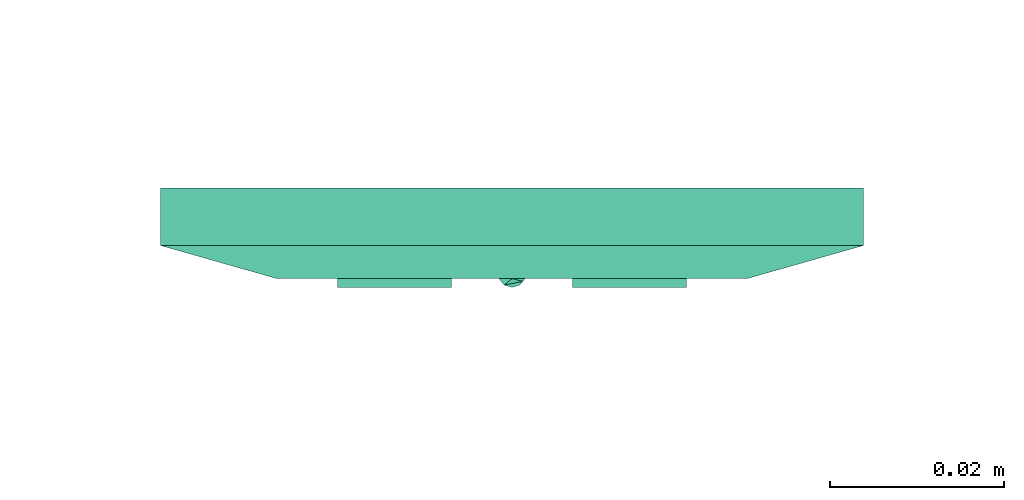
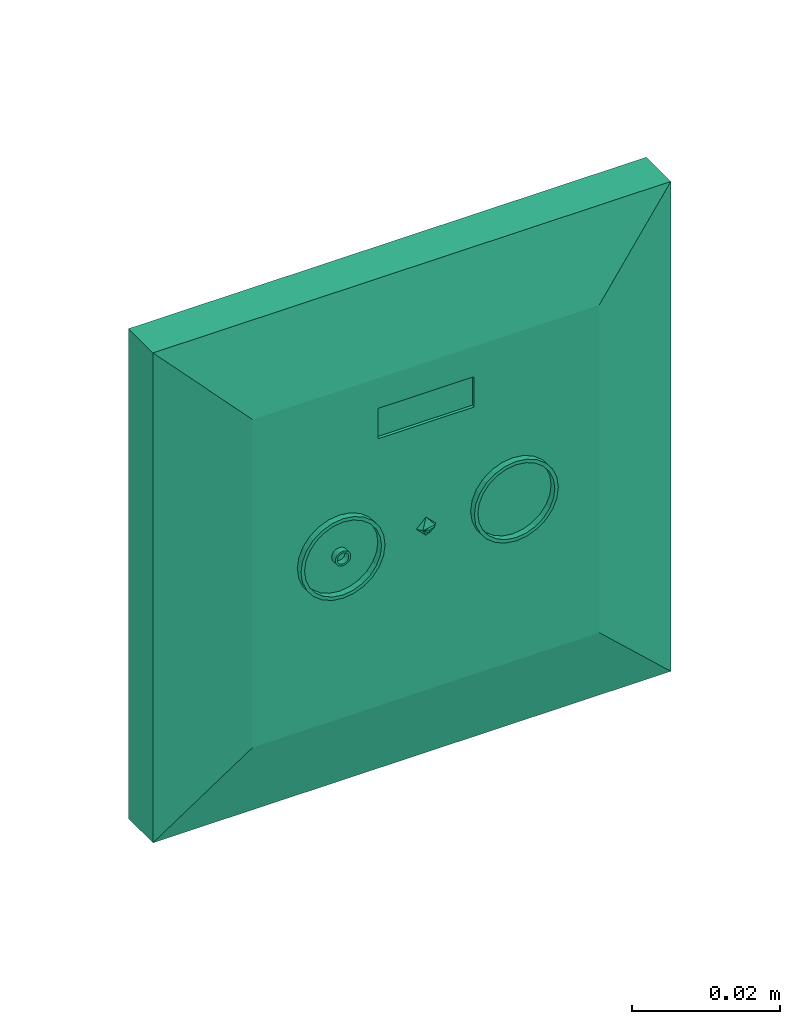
# One storey, part 118 of 146: 1 flow terminal.
"""IFC2X3 building model written with IfcOpenShell, lengths in metres."""

from ifc_helpers import new_model, entity, si_unit, converted_unit, derived_unit, direction, frame, origin, place, context, subcontext, project, spatial, face_set, surface_model, source, transform, mapped, type_object, type_shapes, element, save


model = new_model("IFC2X3")

# Units and contexts
model_context = context("Model", 3, precision=1e-05, world=origin(), true_north=direction((6.12303176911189e-17, 1.0)))
body_context = subcontext(model_context, "Body", "Model", "MODEL_VIEW")
ifc_project = project(units=[si_unit("LENGTHUNIT", "METRE"), si_unit("AREAUNIT", "SQUARE_METRE"), si_unit("VOLUMEUNIT", "CUBIC_METRE"), converted_unit("PLANEANGLEUNIT", "DEGREE", entity("IfcRatioMeasure", 0.0174532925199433), si_unit("PLANEANGLEUNIT", "RADIAN"), dimensions=[0, 0, 0, 0, 0, 0, 0]), si_unit("MASSUNIT", "GRAM", prefix="KILO"), derived_unit("MASSDENSITYUNIT", [(si_unit("MASSUNIT", "GRAM", prefix="KILO"), 1), (si_unit("LENGTHUNIT", "METRE"), -3)]), si_unit("TIMEUNIT", "SECOND"), si_unit("FREQUENCYUNIT", "HERTZ"), si_unit("THERMODYNAMICTEMPERATUREUNIT", "DEGREE_CELSIUS"), derived_unit("THERMALTRANSMITTANCEUNIT", [(si_unit("MASSUNIT", "GRAM", prefix="KILO"), 1), (si_unit("THERMODYNAMICTEMPERATUREUNIT", "KELVIN"), -1), (si_unit("TIMEUNIT", "SECOND"), -3)]), derived_unit("VOLUMETRICFLOWRATEUNIT", [(si_unit("LENGTHUNIT", "METRE"), 3), (si_unit("TIMEUNIT", "SECOND"), -1)]), si_unit("ELECTRICCURRENTUNIT", "AMPERE"), si_unit("ELECTRICVOLTAGEUNIT", "VOLT"), si_unit("POWERUNIT", "WATT"), si_unit("FORCEUNIT", "NEWTON"), si_unit("ILLUMINANCEUNIT", "LUX"), si_unit("LUMINOUSFLUXUNIT", "LUMEN"), si_unit("LUMINOUSINTENSITYUNIT", "CANDELA"), derived_unit("USERDEFINED", [(si_unit("MASSUNIT", "GRAM", prefix="KILO"), -1), (si_unit("LENGTHUNIT", "METRE"), -2), (si_unit("TIMEUNIT", "SECOND"), 3), (si_unit("LUMINOUSFLUXUNIT", "LUMEN"), 1)]), derived_unit("LINEARVELOCITYUNIT", [(si_unit("LENGTHUNIT", "METRE"), 1), (si_unit("TIMEUNIT", "SECOND"), -1)]), si_unit("PRESSUREUNIT", "PASCAL"), derived_unit("USERDEFINED", [(si_unit("LENGTHUNIT", "METRE"), -2), (si_unit("MASSUNIT", "GRAM", prefix="KILO"), 1), (si_unit("TIMEUNIT", "SECOND"), -2)])], contexts=[model_context])

# Site, building, storey
site_placement = place(None, origin())
site = spatial("IfcSite", under=ifc_project, at=site_placement, Name="Default", CompositionType="ELEMENT")
building_placement = place(site_placement, origin())
building = spatial("IfcBuilding", under=site, at=building_placement, CompositionType="ELEMENT")
storey_placement = place(building_placement, origin())
storey = spatial("IfcBuildingStorey", under=building, at=storey_placement, Name="S01", CompositionType="ELEMENT", Elevation=0.0)

# Flow terminal
electric_appliance_type = type_object("IfcElectricApplianceType", Name="Prise vidéo IP20", PredefinedType="NOTDEFINED")
shared_shape = source(origin(), body_context, "Body", "SurfaceModel", [
    surface_model("IfcFaceBasedSurfaceModel", [(0.0, 0.0, 0.010399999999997), (-0.00149999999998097, 0.0, 0.0103999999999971), (0.0, 0.0014999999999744, 0.0103999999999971), (0.00150000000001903, 0.0, 0.010399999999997), (0.0, -0.0015000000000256, 0.010399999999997), (-0.00090957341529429, 0.0, 0.0111393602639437), (0.00090957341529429, 0.0, 0.0111393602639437), (0.0, 0.000588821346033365, 0.0113031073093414), (0.0, 0.0, 0.0114000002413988), (-0.00125418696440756, 0.0, 0.0107078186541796), (0.000378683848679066, 0.0, 0.0112914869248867), (-0.00695404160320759, 0.0, 0.010399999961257), (-0.007177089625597, 0.00169421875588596, 0.010399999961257), (-0.007177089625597, 0.00169421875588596, 0.0114000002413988), (-0.00695404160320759, 0.0, 0.0114000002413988), (-0.00783103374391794, 0.00327297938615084, 0.010399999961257), (-0.00783103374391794, 0.00327297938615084, 0.0114000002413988), (-0.00887130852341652, 0.00462869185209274, 0.010399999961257), (-0.0102270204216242, 0.00566896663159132, 0.010399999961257), (-0.0102270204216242, 0.00566896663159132, 0.0114000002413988), (-0.00887130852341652, 0.00462869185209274, 0.0114000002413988), (-0.0118057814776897, 0.00632291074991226, 0.010399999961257), (-0.0118057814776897, 0.00632291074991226, 0.0114000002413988), (-0.0135000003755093, 0.00654595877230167, 0.0114000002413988), (-0.0135000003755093, 0.00654595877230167, 0.010399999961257), (-0.0151942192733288, 0.00632291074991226, 0.010399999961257), (-0.0151942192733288, 0.00632291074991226, 0.0114000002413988), (-0.0167729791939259, 0.00566896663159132, 0.010399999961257), (-0.0167729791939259, 0.00566896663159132, 0.0114000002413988), (-0.018128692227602, 0.00462869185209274, 0.010399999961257), (-0.0191689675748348, 0.00327297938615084, 0.010399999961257), (-0.0191689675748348, 0.00327297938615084, 0.0114000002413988), (-0.018128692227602, 0.00462869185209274, 0.0114000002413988), (-0.0198229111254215, 0.00169421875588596, 0.010399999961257), (-0.0198229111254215, 0.00169421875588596, 0.0114000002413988), (-0.0200459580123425, 0.0, 0.0114000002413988), (-0.0200459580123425, 0.0, 0.010399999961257), (-0.0198229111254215, -0.00169421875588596, 0.010399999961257), (-0.0198229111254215, -0.00169421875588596, 0.0114000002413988), (-0.0191689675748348, -0.00327297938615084, 0.010399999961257), (-0.0191689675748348, -0.00327297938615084, 0.0114000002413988), (-0.018128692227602, -0.00462869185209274, 0.010399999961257), (-0.0167729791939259, -0.00566896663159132, 0.010399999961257), (-0.0167729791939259, -0.00566896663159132, 0.0114000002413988), (-0.018128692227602, -0.00462869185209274, 0.0114000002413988), (-0.0151942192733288, -0.00632291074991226, 0.010399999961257), (-0.0151942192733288, -0.00632291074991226, 0.0114000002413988), (-0.0135000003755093, -0.00654595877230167, 0.0114000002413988), (-0.0135000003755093, -0.00654595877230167, 0.010399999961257), (-0.0118057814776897, -0.00632291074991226, 0.010399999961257), (-0.0118057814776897, -0.00632291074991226, 0.0114000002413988), (-0.0102270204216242, -0.00566896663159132, 0.010399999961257), (-0.0102270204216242, -0.00566896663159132, 0.0114000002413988), (-0.00887130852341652, -0.00462869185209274, 0.010399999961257), (-0.00783103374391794, -0.00327297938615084, 0.010399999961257), (-0.00783103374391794, -0.00327297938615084, 0.0114000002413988), (-0.00887130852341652, -0.00462869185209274, 0.0114000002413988), (-0.007177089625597, -0.00169421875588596, 0.010399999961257), (-0.007177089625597, -0.00169421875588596, 0.0114000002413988), (-0.00749999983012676, 0.0, 0.010399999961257), (-0.00749999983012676, 0.0, 0.0114000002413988), (-0.00770444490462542, -0.00155291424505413, 0.0114000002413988), (-0.00770444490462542, -0.00155291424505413, 0.010399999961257), (-0.00830384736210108, -0.00299999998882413, 0.0114000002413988), (-0.00830384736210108, -0.00299999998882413, 0.010399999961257), (-0.0092573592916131, -0.00424264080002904, 0.010399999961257), (-0.0092573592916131, -0.00424264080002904, 0.0114000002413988), (-0.0104999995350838, -0.00519615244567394, 0.0114000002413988), (-0.0104999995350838, -0.00519615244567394, 0.010399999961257), (-0.0119470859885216, -0.00579555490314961, 0.0114000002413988), (-0.0119470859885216, -0.00579555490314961, 0.010399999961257), (-0.0135000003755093, -0.00599999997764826, 0.0114000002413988), (-0.0135000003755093, -0.00599999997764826, 0.010399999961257), (-0.015052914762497, -0.00579555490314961, 0.0114000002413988), (-0.015052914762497, -0.00579555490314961, 0.010399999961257), (-0.0165000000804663, -0.00519615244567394, 0.0114000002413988), (-0.0165000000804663, -0.00519615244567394, 0.010399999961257), (-0.0177426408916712, -0.00424264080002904, 0.010399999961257), (-0.0177426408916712, -0.00424264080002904, 0.0114000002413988), (-0.0186961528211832, -0.00299999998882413, 0.0114000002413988), (-0.0186961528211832, -0.00299999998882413, 0.010399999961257), (-0.0192955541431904, -0.00155291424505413, 0.0114000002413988), (-0.0192955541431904, -0.00155291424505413, 0.010399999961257), (-0.0194999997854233, 0.0, 0.0114000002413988), (-0.0194999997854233, 0.0, 0.010399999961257), (-0.0192955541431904, 0.00155291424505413, 0.0114000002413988), (-0.0192955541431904, 0.00155291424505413, 0.010399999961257), (-0.0186961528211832, 0.00299999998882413, 0.0114000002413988), (-0.0186961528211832, 0.00299999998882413, 0.010399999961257), (-0.0177426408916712, 0.00424264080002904, 0.010399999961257), (-0.0177426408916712, 0.00424264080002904, 0.0114000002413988), (-0.0165000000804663, 0.00519615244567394, 0.0114000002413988), (-0.0165000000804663, 0.00519615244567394, 0.010399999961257), (-0.015052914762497, 0.00579555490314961, 0.0114000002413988), (-0.015052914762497, 0.00579555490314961, 0.010399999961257), (-0.0135000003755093, 0.00599999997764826, 0.0114000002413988), (-0.0135000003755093, 0.00599999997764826, 0.010399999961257), (-0.0119470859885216, 0.00579555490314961, 0.0114000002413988), (-0.0119470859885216, 0.00579555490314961, 0.010399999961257), (-0.0104999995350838, 0.00519615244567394, 0.0114000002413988), (-0.0104999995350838, 0.00519615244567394, 0.010399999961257), (-0.0092573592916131, 0.00424264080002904, 0.010399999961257), (-0.0092573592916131, 0.00424264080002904, 0.0114000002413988), (-0.00830384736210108, 0.00299999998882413, 0.0114000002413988), (-0.00830384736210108, 0.00299999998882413, 0.010399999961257), (-0.00770444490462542, 0.00155291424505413, 0.0114000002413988), (-0.00770444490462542, 0.00155291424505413, 0.010399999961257), (0.0200459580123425, 0.0, 0.0114000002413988), (0.0200459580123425, 0.0, 0.010399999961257), (0.0198229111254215, 0.00169421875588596, 0.010399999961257), (0.0198229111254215, 0.00169421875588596, 0.0114000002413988), (0.0191689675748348, 0.00327297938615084, 0.010399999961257), (0.0191689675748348, 0.00327297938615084, 0.0114000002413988), (0.018128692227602, 0.00462869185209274, 0.0114000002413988), (0.018128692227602, 0.00462869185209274, 0.010399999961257), (0.0167729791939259, 0.00566896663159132, 0.010399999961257), (0.0167729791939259, 0.00566896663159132, 0.0114000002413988), (0.0151942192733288, 0.00632291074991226, 0.010399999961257), (0.0151942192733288, 0.00632291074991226, 0.0114000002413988), (0.0135000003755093, 0.00654595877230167, 0.010399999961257), (0.0135000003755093, 0.00654595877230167, 0.0114000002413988), (0.0118057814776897, 0.00632291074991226, 0.0114000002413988), (0.0118057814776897, 0.00632291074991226, 0.010399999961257), (0.0102270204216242, 0.00566896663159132, 0.010399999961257), (0.0102270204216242, 0.00566896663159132, 0.0114000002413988), (0.00887130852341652, 0.00462869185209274, 0.010399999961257), (0.00887130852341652, 0.00462869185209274, 0.0114000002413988), (0.00783103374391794, 0.00327297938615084, 0.0114000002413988), (0.00783103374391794, 0.00327297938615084, 0.010399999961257), (0.007177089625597, 0.00169421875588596, 0.010399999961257), (0.007177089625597, 0.00169421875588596, 0.0114000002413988), (0.00695404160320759, 0.0, 0.010399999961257), (0.00695404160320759, 0.0, 0.0114000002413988), (0.007177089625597, -0.00169421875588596, 0.010399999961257), (0.007177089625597, -0.00169421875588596, 0.0114000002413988), (0.00783103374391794, -0.00327297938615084, 0.010399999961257), (0.00783103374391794, -0.00327297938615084, 0.0114000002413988), (0.00887130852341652, -0.00462869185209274, 0.0114000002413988), (0.00887130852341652, -0.00462869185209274, 0.010399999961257), (0.0102270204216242, -0.00566896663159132, 0.010399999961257), (0.0102270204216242, -0.00566896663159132, 0.0114000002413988), (0.0118057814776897, -0.00632291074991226, 0.010399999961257), (0.0118057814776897, -0.00632291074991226, 0.0114000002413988), (0.0135000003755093, -0.00654595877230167, 0.010399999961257), (0.0135000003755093, -0.00654595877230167, 0.0114000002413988), (0.0151942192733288, -0.00632291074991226, 0.0114000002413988), (0.0151942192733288, -0.00632291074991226, 0.010399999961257), (0.0167729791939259, -0.00566896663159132, 0.010399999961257), (0.0167729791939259, -0.00566896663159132, 0.0114000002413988), (0.018128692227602, -0.00462869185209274, 0.010399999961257), (0.018128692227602, -0.00462869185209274, 0.0114000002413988), (0.0191689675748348, -0.00327297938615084, 0.0114000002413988), (0.0191689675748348, -0.00327297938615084, 0.010399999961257), (0.0198229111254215, -0.00169421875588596, 0.010399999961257), (0.0198229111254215, -0.00169421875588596, 0.0114000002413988), (0.0194999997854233, 0.0, 0.010399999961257), (0.0194999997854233, 0.0, 0.0114000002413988), (0.0192955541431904, -0.00155291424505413, 0.0114000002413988), (0.0192955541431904, -0.00155291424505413, 0.010399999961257), (0.0186961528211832, -0.00299999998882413, 0.0114000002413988), (0.0186961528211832, -0.00299999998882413, 0.010399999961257), (0.0177426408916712, -0.00424264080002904, 0.010399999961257), (0.0177426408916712, -0.00424264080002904, 0.0114000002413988), (0.0165000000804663, -0.00519615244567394, 0.0114000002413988), (0.0165000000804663, -0.00519615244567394, 0.010399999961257), (0.015052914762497, -0.00579555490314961, 0.0114000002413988), (0.015052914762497, -0.00579555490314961, 0.010399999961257), (0.0135000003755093, -0.00599999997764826, 0.0114000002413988), (0.0135000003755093, -0.00599999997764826, 0.010399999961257), (0.0119470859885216, -0.00579555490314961, 0.0114000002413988), (0.0119470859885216, -0.00579555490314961, 0.010399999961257), (0.0104999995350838, -0.00519615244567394, 0.0114000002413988), (0.0104999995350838, -0.00519615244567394, 0.010399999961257), (0.0092573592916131, -0.00424264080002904, 0.010399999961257), (0.0092573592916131, -0.00424264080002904, 0.0114000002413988), (0.00830384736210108, -0.00299999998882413, 0.0114000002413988), (0.00830384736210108, -0.00299999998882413, 0.010399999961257), (0.00770444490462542, -0.00155291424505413, 0.0114000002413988), (0.00770444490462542, -0.00155291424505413, 0.010399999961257), (0.00749999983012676, 0.0, 0.0114000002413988), (0.00749999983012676, 0.0, 0.010399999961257), (0.00770444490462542, 0.00155291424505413, 0.0114000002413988), (0.00770444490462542, 0.00155291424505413, 0.010399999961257), (0.00830384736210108, 0.00299999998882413, 0.0114000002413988), (0.00830384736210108, 0.00299999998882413, 0.010399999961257), (0.0092573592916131, 0.00424264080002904, 0.010399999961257), (0.0092573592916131, 0.00424264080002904, 0.0114000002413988), (0.0104999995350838, 0.00519615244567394, 0.0114000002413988), (0.0104999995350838, 0.00519615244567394, 0.010399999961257), (0.0119470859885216, 0.00579555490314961, 0.0114000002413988), (0.0119470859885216, 0.00579555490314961, 0.010399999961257), (0.0135000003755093, 0.00599999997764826, 0.0114000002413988), (0.0135000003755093, 0.00599999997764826, 0.010399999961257), (0.015052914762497, 0.00579555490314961, 0.0114000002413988), (0.015052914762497, 0.00579555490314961, 0.010399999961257), (0.0165000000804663, 0.00519615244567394, 0.0114000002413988), (0.0165000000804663, 0.00519615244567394, 0.010399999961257), (0.0177426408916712, 0.00424264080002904, 0.010399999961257), (0.0177426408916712, 0.00424264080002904, 0.0114000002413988), (0.0186961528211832, 0.00299999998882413, 0.0114000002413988), (0.0186961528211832, 0.00299999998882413, 0.010399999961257), (0.0192955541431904, 0.00155291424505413, 0.0114000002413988), (0.0192955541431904, 0.00155291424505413, 0.010399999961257), (0.0146999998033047, 0.0, 0.0114000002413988), (0.0146999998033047, 0.0, 0.010399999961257), (0.0146591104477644, 0.000310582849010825, 0.010399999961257), (0.0146591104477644, 0.000310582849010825, 0.0114000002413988), (0.0145392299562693, 0.000599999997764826, 0.010399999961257), (0.0145392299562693, 0.000599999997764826, 0.0114000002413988), (0.0143485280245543, 0.000848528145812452, 0.0114000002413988), (0.0143485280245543, 0.000848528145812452, 0.010399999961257), (0.014100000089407, 0.00103923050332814, 0.010399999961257), (0.014100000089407, 0.00103923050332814, 0.0114000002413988), (0.0138105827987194, 0.00115911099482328, 0.010399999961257), (0.0138105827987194, 0.00115911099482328, 0.0114000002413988), (0.0135000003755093, 0.00119999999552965, 0.010399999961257), (0.0135000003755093, 0.00119999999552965, 0.0114000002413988), (0.0131894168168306, 0.00115911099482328, 0.0114000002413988), (0.0131894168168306, 0.00115911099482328, 0.010399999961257), (0.0128999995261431, 0.00103923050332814, 0.010399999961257), (0.0128999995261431, 0.00103923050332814, 0.0114000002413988), (0.0126514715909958, 0.000848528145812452, 0.010399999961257), (0.0126514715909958, 0.000848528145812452, 0.0114000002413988), (0.0124607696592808, 0.000599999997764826, 0.0114000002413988), (0.0124607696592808, 0.000599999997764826, 0.010399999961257), (0.0123408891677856, 0.000310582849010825, 0.010399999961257), (0.0123408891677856, 0.000310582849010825, 0.0114000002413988), (0.0122999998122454, 0.0, 0.010399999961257), (0.0122999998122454, 0.0, 0.0114000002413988), (0.0123408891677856, -0.000310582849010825, 0.010399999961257), (0.0123408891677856, -0.000310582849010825, 0.0114000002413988), (0.0124607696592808, -0.000599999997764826, 0.010399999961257), (0.0124607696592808, -0.000599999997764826, 0.0114000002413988), (0.0126514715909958, -0.000848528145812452, 0.0114000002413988), (0.0126514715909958, -0.000848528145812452, 0.010399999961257), (0.0128999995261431, -0.00103923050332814, 0.010399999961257), (0.0128999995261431, -0.00103923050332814, 0.0114000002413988), (0.0131894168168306, -0.00115911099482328, 0.010399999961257), (0.0131894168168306, -0.00115911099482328, 0.0114000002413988), (0.0135000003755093, -0.00119999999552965, 0.010399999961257), (0.0135000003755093, -0.00119999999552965, 0.0114000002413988), (0.0138105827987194, -0.00115911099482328, 0.0114000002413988), (0.0138105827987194, -0.00115911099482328, 0.010399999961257), (0.014100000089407, -0.00103923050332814, 0.010399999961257), (0.014100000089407, -0.00103923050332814, 0.0114000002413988), (0.0143485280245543, -0.000848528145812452, 0.010399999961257), (0.0143485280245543, -0.000848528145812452, 0.0114000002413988), (0.0145392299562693, -0.000599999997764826, 0.0114000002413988), (0.0145392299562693, -0.000599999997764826, 0.010399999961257), (0.0146591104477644, -0.000310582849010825, 0.010399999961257), (0.0146591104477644, -0.000310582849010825, 0.0114000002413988), (0.0143945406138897, 0.0, 0.010399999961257), (0.0143945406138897, 0.0, 0.0114000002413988), (0.0143640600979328, -0.000231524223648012, 0.0114000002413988), (0.0143640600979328, -0.000231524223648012, 0.010399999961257), (0.0142746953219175, -0.000447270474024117, 0.0114000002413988), (0.0142746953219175, -0.000447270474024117, 0.010399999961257), (0.014132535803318, -0.000632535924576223, 0.010399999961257), (0.014132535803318, -0.000632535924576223, 0.0114000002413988), (0.0139472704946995, -0.000774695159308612, 0.0114000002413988), (0.0139472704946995, -0.000774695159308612, 0.010399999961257), (0.0137315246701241, -0.000864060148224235, 0.0114000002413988), (0.0137315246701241, -0.000864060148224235, 0.010399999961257), (0.0135000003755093, -0.000894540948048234, 0.0114000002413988), (0.0135000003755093, -0.000894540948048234, 0.010399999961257), (0.0132684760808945, -0.000864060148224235, 0.0114000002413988), (0.0132684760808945, -0.000864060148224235, 0.010399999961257), (0.0130527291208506, -0.000774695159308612, 0.0114000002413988), (0.0130527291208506, -0.000774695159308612, 0.010399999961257), (0.012867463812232, -0.000632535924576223, 0.010399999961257), (0.012867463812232, -0.000632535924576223, 0.0114000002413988), (0.0127253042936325, -0.000447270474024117, 0.0114000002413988), (0.0127253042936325, -0.000447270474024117, 0.010399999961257), (0.0126359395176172, -0.000231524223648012, 0.0114000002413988), (0.0126359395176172, -0.000231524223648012, 0.010399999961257), (0.0126054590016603, 0.0, 0.0114000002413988), (0.0126054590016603, 0.0, 0.010399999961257), (0.0126359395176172, 0.000231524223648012, 0.0114000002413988), (0.0126359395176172, 0.000231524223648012, 0.010399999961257), (0.0127253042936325, 0.000447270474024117, 0.0114000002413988), (0.0127253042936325, 0.000447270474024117, 0.010399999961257), (0.012867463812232, 0.000632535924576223, 0.010399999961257), (0.012867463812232, 0.000632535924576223, 0.0114000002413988), (0.0130527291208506, 0.000774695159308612, 0.0114000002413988), (0.0130527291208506, 0.000774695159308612, 0.010399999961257), (0.0132684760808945, 0.000864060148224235, 0.0114000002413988), (0.0132684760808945, 0.000864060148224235, 0.010399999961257), (0.0135000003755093, 0.000894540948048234, 0.0114000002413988), (0.0135000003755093, 0.000894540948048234, 0.010399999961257), (0.0137315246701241, 0.000864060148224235, 0.0114000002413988), (0.0137315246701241, 0.000864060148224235, 0.010399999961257), (0.0139472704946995, 0.000774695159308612, 0.0114000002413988), (0.0139472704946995, 0.000774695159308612, 0.010399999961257), (0.014132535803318, 0.000632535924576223, 0.010399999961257), (0.014132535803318, 0.000632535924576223, 0.0114000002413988), (0.0142746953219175, 0.000447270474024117, 0.0114000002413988), (0.0142746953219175, 0.000447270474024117, 0.010399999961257), (0.0143640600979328, 0.000231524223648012, 0.0114000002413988), (0.0143640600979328, 0.000231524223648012, 0.010399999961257), (0.0146591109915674, 0.000310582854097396, 0.0113999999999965), (0.0126054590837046, 0.0, 0.0113999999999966), (0.0128674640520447, -0.000632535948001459, 0.0113999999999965), (0.0146591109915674, 0.000310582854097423, 0.0103999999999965), (0.0126054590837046, 0.0, 0.0103999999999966), (0.0128674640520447, -0.000632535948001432, 0.0103999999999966), (0.027000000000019, 0.0269999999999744, 0.0103999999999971), (0.027000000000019, -0.0270000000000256, 0.0103999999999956), (-0.026999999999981, -0.0270000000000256, 0.0103999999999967), (-0.026999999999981, 0.0269999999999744, 0.0103999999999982), (-0.0074999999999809, -0.0170000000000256, 0.0103999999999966), (-0.0074999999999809, -0.0220000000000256, 0.0103999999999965), (0.0075000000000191, -0.0220000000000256, 0.0103999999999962), (0.0075000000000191, -0.0170000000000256, 0.0103999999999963), (0.0270000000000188, 0.0269999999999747, 0.0), (0.0270000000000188, -0.0270000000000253, 0.0), (-0.0269999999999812, -0.0270000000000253, 0.0), (-0.0269999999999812, 0.0269999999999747, 0.0), (0.00750000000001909, -0.0170000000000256, 0.00989999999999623), (0.00750000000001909, -0.0220000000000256, 0.00989999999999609), (-0.00749999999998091, -0.0220000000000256, 0.0098999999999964), (-0.00749999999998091, -0.0170000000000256, 0.00989999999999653), (0.040350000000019, 0.0403499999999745, 0.00659999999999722), (0.040350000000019, -0.0403500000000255, 0.00659999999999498), (-0.0403499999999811, -0.0403500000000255, 0.00659999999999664), (-0.0403499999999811, 0.0403499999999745, 0.00659999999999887), (0.027000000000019, 0.0269999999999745, 0.00659999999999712), (-0.0269999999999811, 0.0269999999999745, 0.00659999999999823), (-0.026999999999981, -0.0270000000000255, 0.00659999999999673), (0.027000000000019, -0.0270000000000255, 0.00659999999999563), (0.027000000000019, 0.0269999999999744, 0.0103999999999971), (-0.026999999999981, 0.0269999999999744, 0.0103999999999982), (-0.026999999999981, -0.0270000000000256, 0.0103999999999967), (0.027000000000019, -0.0270000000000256, 0.0103999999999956), (0.040350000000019, 0.0403499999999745, 0.00659999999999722), (0.040350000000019, -0.0403500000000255, 0.00659999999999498), (-0.0403499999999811, -0.0403500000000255, 0.00659999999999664), (-0.0403499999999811, 0.0403499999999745, 0.00659999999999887), (-0.0269999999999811, 0.0269999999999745, 0.00659999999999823), (-0.0269999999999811, -0.0270000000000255, 0.00659999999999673), (0.0270000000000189, -0.0270000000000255, 0.00659999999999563), (0.0270000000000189, 0.0269999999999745, 0.00659999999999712), (0.0403500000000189, 0.0403499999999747, 0.0), (0.0403500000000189, -0.0403500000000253, 0.0), (-0.0403499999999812, -0.0403500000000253, 0.0), (-0.0403499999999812, 0.0403499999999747, 0.0), (0.0270000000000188, 0.0269999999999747, 0.0), (-0.0269999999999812, 0.0269999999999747, 0.0), (-0.0269999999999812, -0.0270000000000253, 0.0), (0.0270000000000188, -0.0270000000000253, 0.0)], [face_set([[[0, 1, 2, 3]], [[0, 3, 4, 1]], [[1, 5, 2]], [[6, 2, 5]], [[7, 8, 6]], [[6, 3, 2]], [[7, 5, 6]], [[8, 7, 5]], [[6, 4, 3]], [[1, 4, 9]], [[6, 9, 4]], [[5, 9, 6, 10]], [[10, 8, 5]]]), face_set([[[11, 12, 13, 14]], [[12, 15, 16, 13]], [[17, 18, 19, 20]], [[15, 17, 20, 16]], [[18, 21, 22, 19]], [[23, 22, 21, 24]], [[24, 25, 26, 23]], [[25, 27, 28, 26]], [[29, 30, 31, 32]], [[27, 29, 32, 28]], [[30, 33, 34, 31]], [[35, 34, 33, 36]], [[36, 37, 38, 35]], [[37, 39, 40, 38]], [[41, 42, 43, 44]], [[39, 41, 44, 40]], [[42, 45, 46, 43]], [[47, 46, 45, 48]], [[48, 49, 50, 47]], [[49, 51, 52, 50]], [[53, 54, 55, 56]], [[51, 53, 56, 52]], [[54, 57, 58, 55]], [[14, 58, 57, 11]], [[59, 60, 61, 62]], [[62, 61, 63, 64]], [[65, 66, 67, 68]], [[64, 63, 66, 65]], [[68, 67, 69, 70]], [[71, 72, 70, 69]], [[72, 71, 73, 74]], [[74, 73, 75, 76]], [[77, 78, 79, 80]], [[76, 75, 78, 77]], [[80, 79, 81, 82]], [[83, 84, 82, 81]], [[84, 83, 85, 86]], [[86, 85, 87, 88]], [[89, 90, 91, 92]], [[88, 87, 90, 89]], [[92, 91, 93, 94]], [[95, 96, 94, 93]], [[96, 95, 97, 98]], [[98, 97, 99, 100]], [[101, 102, 103, 104]], [[100, 99, 102, 101]], [[104, 103, 105, 106]], [[60, 59, 106, 105]], [[35, 34, 31, 32, 28, 26, 23, 22, 19, 20, 16, 13, 14, 58, 55, 56, 52, 50, 47, 46, 43, 44, 40, 38], [83, 81, 79, 78, 75, 73, 71, 69, 67, 66, 63, 61, 60, 105, 103, 102, 99, 97, 95, 93, 91, 90, 87, 85]], [[36, 33, 30, 29, 27, 25, 24, 21, 18, 17, 15, 12, 11, 57, 54, 53, 51, 49, 48, 45, 42, 41, 39, 37], [84, 82, 80, 77, 76, 74, 72, 70, 68, 65, 64, 62, 59, 106, 104, 101, 100, 98, 96, 94, 92, 89, 88, 86]]]), face_set([[[107, 108, 109, 110]], [[110, 109, 111, 112]], [[113, 114, 115, 116]], [[112, 111, 114, 113]], [[116, 115, 117, 118]], [[119, 120, 118, 117]], [[121, 122, 123, 124]], [[124, 123, 125, 126]], [[127, 128, 129, 130]], [[126, 125, 128, 127]], [[130, 129, 131, 132]], [[122, 121, 120, 119]], [[132, 131, 133, 134]], [[134, 133, 135, 136]], [[137, 138, 139, 140]], [[136, 135, 138, 137]], [[140, 139, 141, 142]], [[143, 144, 142, 141]], [[145, 146, 147, 148]], [[148, 147, 149, 150]], [[151, 152, 153, 154]], [[150, 149, 152, 151]], [[154, 153, 108, 107]], [[146, 145, 144, 143]], [[155, 156, 157, 158]], [[158, 157, 159, 160]], [[161, 162, 163, 164]], [[160, 159, 162, 161]], [[164, 163, 165, 166]], [[167, 168, 166, 165]], [[168, 167, 169, 170]], [[170, 169, 171, 172]], [[173, 174, 175, 176]], [[172, 171, 174, 173]], [[176, 175, 177, 178]], [[179, 180, 178, 177]], [[180, 179, 181, 182]], [[182, 181, 183, 184]], [[185, 186, 187, 188]], [[184, 183, 186, 185]], [[188, 187, 189, 190]], [[191, 192, 190, 189]], [[192, 191, 193, 194]], [[194, 193, 195, 196]], [[197, 198, 199, 200]], [[196, 195, 198, 197]], [[200, 199, 201, 202]], [[156, 155, 202, 201]], [[132, 130, 127, 126, 124, 121, 120, 118, 116, 113, 112, 110, 107, 154, 151, 150, 148, 145, 144, 142, 140, 137, 136, 134], [179, 177, 175, 174, 171, 169, 167, 165, 163, 162, 159, 157, 156, 201, 199, 198, 195, 193, 191, 189, 187, 186, 183, 181]], [[131, 129, 128, 125, 123, 122, 119, 117, 115, 114, 111, 109, 108, 153, 152, 149, 147, 146, 143, 141, 139, 138, 135, 133], [180, 178, 176, 173, 172, 170, 168, 166, 164, 161, 160, 158, 155, 202, 200, 197, 196, 194, 192, 190, 188, 185, 184, 182]]]), face_set([[[203, 204, 205, 206]], [[206, 205, 207, 208]], [[209, 210, 211, 212]], [[208, 207, 210, 209]], [[212, 211, 213, 214]], [[215, 216, 214, 213]], [[217, 218, 219, 220]], [[220, 219, 221, 222]], [[223, 224, 225, 226]], [[222, 221, 224, 223]], [[226, 225, 227, 228]], [[218, 217, 216, 215]], [[228, 227, 229, 230]], [[230, 229, 231, 232]], [[233, 234, 235, 236]], [[232, 231, 234, 233]], [[236, 235, 237, 238]], [[239, 240, 238, 237]], [[241, 242, 243, 244]], [[244, 243, 245, 246]], [[247, 248, 249, 250]], [[246, 245, 248, 247]], [[250, 249, 204, 203]], [[242, 241, 240, 239]], [[251, 252, 253, 254]], [[254, 253, 255, 256]], [[257, 258, 259, 260]], [[256, 255, 258, 257]], [[260, 259, 261, 262]], [[263, 264, 262, 261]], [[264, 263, 265, 266]], [[266, 265, 267, 268]], [[269, 270, 271, 272]], [[268, 267, 270, 269]], [[272, 271, 273, 274]], [[275, 276, 274, 273]], [[276, 275, 277, 278]], [[278, 277, 279, 280]], [[281, 282, 283, 284]], [[280, 279, 282, 281]], [[284, 283, 285, 286]], [[287, 288, 286, 285]], [[288, 287, 289, 290]], [[290, 289, 291, 292]], [[293, 294, 295, 296]], [[292, 291, 294, 293]], [[296, 295, 297, 298]], [[252, 251, 298, 297]], [[228, 226, 223, 222, 220, 217, 216, 214, 212, 209, 208, 299, 203, 250, 247, 246, 244, 241, 240, 238, 236, 233, 232, 230], [300, 273, 271, 301, 267, 265, 263, 261, 259, 258, 255, 253, 252, 297, 295, 294, 291, 289, 287, 285, 283, 282, 279, 277]], [[227, 225, 224, 221, 219, 218, 215, 213, 211, 210, 207, 302, 204, 249, 248, 245, 243, 242, 239, 237, 235, 234, 231, 229], [303, 274, 272, 304, 268, 266, 264, 262, 260, 257, 256, 254, 251, 298, 296, 293, 292, 290, 288, 286, 284, 281, 280, 278]]]), face_set([[[305, 306, 307, 308], [309, 310, 311, 312]], [[313, 314, 315, 316]], [[308, 305, 313, 316]], [[307, 308, 316, 315]], [[306, 307, 315, 314]], [[305, 306, 314, 313]], [[317, 318, 319, 320]], [[320, 317, 312, 309]], [[319, 310, 309, 320]], [[318, 311, 310, 319]], [[317, 312, 311, 318]]]), face_set([[[321, 322, 323, 324], [325, 326, 327, 328]], [[321, 329, 330, 324]], [[324, 330, 331, 323]], [[323, 331, 332, 322]], [[322, 332, 329, 321]], [[325, 326, 330, 329]], [[326, 327, 331, 330]], [[327, 328, 332, 331]], [[329, 332, 328, 325]]]), face_set([[[333, 334, 335, 336], [337, 338, 339, 340]], [[341, 342, 343, 344], [345, 346, 347, 348]], [[336, 333, 341, 344]], [[335, 336, 344, 343]], [[334, 335, 343, 342]], [[333, 334, 342, 341]], [[345, 346, 337, 340]], [[346, 347, 338, 337]], [[347, 348, 339, 338]], [[340, 339, 348, 345]]])]),
])
type_shapes(electric_appliance_type, [shared_shape])
flow_terminal_placement = place(building_placement, frame((56.9217601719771, -185.264069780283, 0.311999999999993), z_axis=(0.0, -1.0, 0.0), x_axis=(-1.0, 0.0, 0.0)))
element("IfcFlowTerminal", 1, at=flow_terminal_placement, inside=storey, type_object=electric_appliance_type, Name="INT_Prise Vidéo IP20/21:Prise vidéo IP20", ObjectType="INT_Prise Vidéo IP20/21:Prise vidéo IP20", context=body_context, shape_type="MappedRepresentation", body=[
    mapped(shared_shape, transform((0.0, 0.0, 0.0), scale=1.0)),
])

save(model, "model.ifc")
